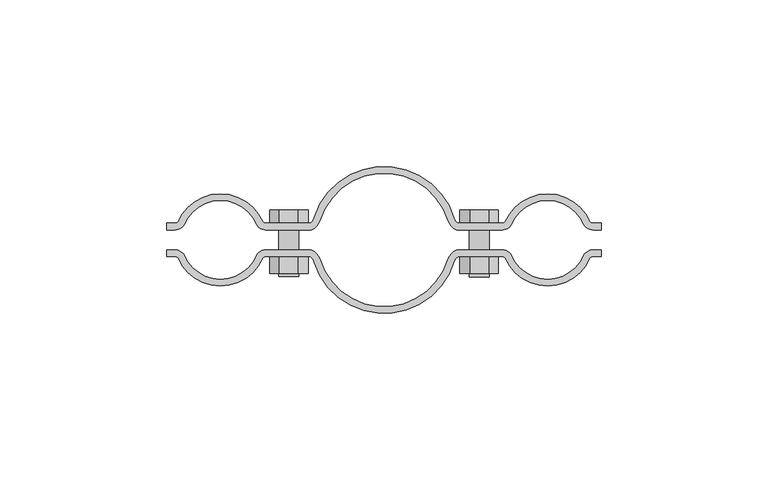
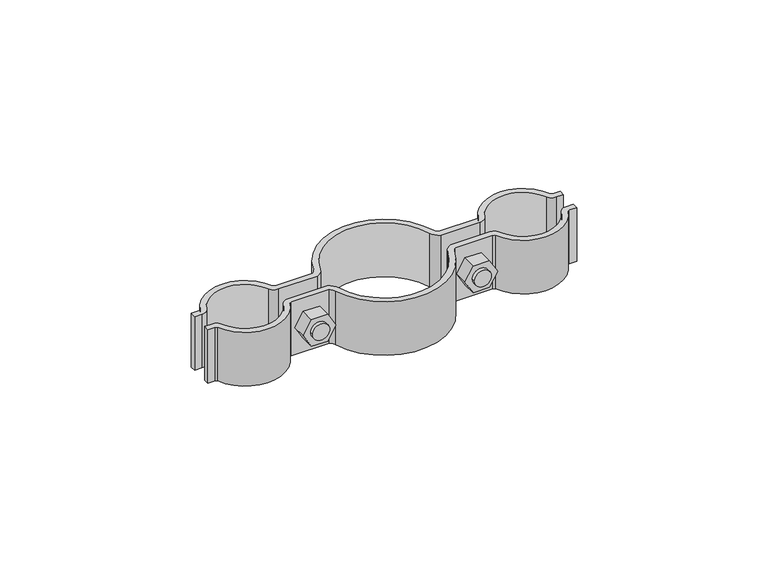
"""IFC4 building model written with IfcOpenShell, lengths in millimetres: proxy geometry, КНС_ДержательНаружногоИзолированногоТокоотводаДляИзолированнойМолниеприемнойМачты_DKC : NK3202_Нержавеющая сталь."""

from ifc_helpers import new_model, si_unit, point, frame, frame_2d, origin, origin_2d, place, context, project, spatial, polyline, circle_curve, trimmed, segment, composite_curve, outline, extrude, source, transform, mapped, element, save


def security_devices_559b2867(model_context):
    return source(origin(), model_context, "Body", "SweptSolid", [
        extrude(outline(composite_curve([segment(trimmed(circle_curve(frame_2d((0.0, 28.5)), 3.0), [point((0.0, 31.5))], [point((0.0, 25.5))], False, "CARTESIAN"), True, "CONTINUOUS"), segment(trimmed(circle_curve(frame_2d((0.0, 28.5)), 3.0), [point((0.0, 25.5))], [point((0.0, 31.5))], False, "CARTESIAN"), True, "CONTINUOUS")], self_intersect=False)), frame((0.0, -11.0407391, 0.0), z_axis=(0.0, 1.0, 0.0), x_axis=(0.0, 0.0, 1.0)), (0.0, 0.0, 1.0), 16.0407391),
        extrude(outline(composite_curve([segment(trimmed(circle_curve(frame_2d((0.0, -28.5)), 3.0), [point((0.0, -31.5))], [point((0.0, -25.5))], False, "CARTESIAN"), True, "CONTINUOUS"), segment(trimmed(circle_curve(frame_2d((0.0, -28.5)), 3.0), [point((0.0, -25.5))], [point((0.0, -31.5))], False, "CARTESIAN"), True, "CONTINUOUS")], self_intersect=False)), frame((0.0, -11.0, 0.0), z_axis=(0.0, 1.0, 0.0), x_axis=(0.0, 0.0, 1.0)), (0.0, 0.0, 1.0), 16.0),
        extrude(outline(polyline([(0.0, 34.2735027), (5.0, 31.3867513), (5.0, 25.6132487), (0.0, 22.7264973), (-5.0, 25.6132487), (-5.0, 31.3867513), (0.0, 34.2735027)])), frame((0.0, 5.0, 0.0), z_axis=(0.0, 1.0, 0.0), x_axis=(0.0, 0.0, 1.0)), (0.0, 0.0, 1.0), 4.0),
        extrude(outline(polyline([(0.0, -34.2735027), (-5.0, -31.3867513), (-5.0, -25.6132487), (0.0, -22.7264973), (5.0, -25.6132487), (5.0, -31.3867513), (0.0, -34.2735027)])), frame((0.0, 5.0, 0.0), z_axis=(0.0, 1.0, 0.0), x_axis=(0.0, 0.0, 1.0)), (0.0, 0.0, 1.0), 4.0),
        extrude(outline(polyline([(0.0, 34.2735027), (5.0, 31.3867513), (5.0, 25.6132487), (0.0, 22.7264973), (-5.0, 25.6132487), (-5.0, 31.3867513), (0.0, 34.2735027)])), frame((0.0, -10.0, 0.0), z_axis=(0.0, 1.0, 0.0), x_axis=(0.0, 0.0, 1.0)), (0.0, 0.0, 1.0), 5.0),
        extrude(outline(polyline([(0.0, -34.2735027), (-5.0, -31.3867513), (-5.0, -25.6132487), (0.0, -22.7264973), (5.0, -25.6132487), (5.0, -31.3867513), (0.0, -34.2735027)])), frame((0.0, -10.0, 0.0), z_axis=(0.0, 1.0, 0.0), x_axis=(0.0, 0.0, 1.0)), (0.0, 0.0, 1.0), 5.0),
        extrude(outline(composite_curve([segment(trimmed(circle_curve(origin_2d(), 20.0), [point((-19.2022645, -5.5922302))], [point((19.2022645, -5.5922302))], True, "CARTESIAN"), True, "CONTINUOUS"), segment(trimmed(circle_curve(frame_2d((23.4842275, -7.281963)), 4.6033036), [point((19.2022645, -5.5922302))], [point((21.7944947, -3.0))], False, "CARTESIAN"), True, "CONTINUOUS"), segment(polyline([(21.7944947, -3.0), (35.5300334, -3.0)]), True, "CONTINUOUS"), segment(trimmed(circle_curve(frame_2d((35.5300334, -5.9220218)), 2.9220218), [point((35.5300334, -3.0))], [point((38.1227213, -4.5743643))], False, "CARTESIAN"), True, "CONTINUOUS"), segment(trimmed(circle_curve(frame_2d((49.0, 0.0)), 11.8), [point((38.1227213, -4.5743643))], [point((59.8772787, -4.5743643))], True, "CARTESIAN"), True, "CONTINUOUS"), segment(trimmed(circle_curve(frame_2d((62.4699666, -5.9220218)), 2.9220218), [point((59.8772787, -4.5743643))], [point((62.4699666, -3.0))], False, "CARTESIAN"), True, "CONTINUOUS"), segment(polyline([(62.4699666, -3.0), (65.0, -3.0), (65.0, -5.0), (62.4699666, -5.0)]), True, "CONTINUOUS"), segment(trimmed(circle_curve(frame_2d((62.4699666, -5.9220218)), 0.9220218), [point((62.4699666, -5.0))], [point((61.6789928, -5.4482236))], True, "CARTESIAN"), True, "CONTINUOUS"), segment(trimmed(circle_curve(frame_2d((49.0, 0.0)), 13.8), [point((61.6789928, -5.4482236))], [point((36.3210072, -5.4482236))], False, "CARTESIAN"), True, "CONTINUOUS"), segment(trimmed(circle_curve(frame_2d((35.5300334, -5.9220218)), 0.9220218), [point((36.3210072, -5.4482236))], [point((35.5300334, -5.0))], True, "CARTESIAN"), True, "CONTINUOUS"), segment(polyline([(35.5300334, -5.0), (22.2312971, -5.0)]), True, "CONTINUOUS"), segment(trimmed(circle_curve(frame_2d((23.4842275, -7.281963)), 2.6033036), [point((22.2312971, -5.0))], [point((21.0920918, -6.2548913))], True, "CARTESIAN"), True, "CONTINUOUS"), segment(trimmed(circle_curve(origin_2d(), 22.0), [point((21.0920918, -6.2548913))], [point((-20.9306684, -6.7754792))], False, "CARTESIAN"), True, "CONTINUOUS"), segment(trimmed(circle_curve(frame_2d((-23.4842275, -7.281963)), 2.6033036), [point((-20.9306684, -6.7754792))], [point((-22.2312971, -5.0))], True, "CARTESIAN"), True, "CONTINUOUS"), segment(polyline([(-22.2312971, -5.0), (-35.5300334, -5.0)]), True, "CONTINUOUS"), segment(trimmed(circle_curve(frame_2d((-35.5300334, -5.9220218)), 0.9220218), [point((-35.5300334, -5.0))], [point((-36.3210072, -5.4482236))], True, "CARTESIAN"), True, "CONTINUOUS"), segment(trimmed(circle_curve(frame_2d((-49.0, 0.0)), 13.8), [point((-36.3210072, -5.4482236))], [point((-61.6789928, -5.4482236))], False, "CARTESIAN"), True, "CONTINUOUS"), segment(trimmed(circle_curve(frame_2d((-62.4699666, -5.9220218)), 0.9220218), [point((-61.6789928, -5.4482236))], [point((-62.4699666, -5.0))], True, "CARTESIAN"), True, "CONTINUOUS"), segment(polyline([(-62.4699666, -5.0), (-65.0, -5.0), (-65.0, -3.0), (-62.4699666, -3.0)]), True, "CONTINUOUS"), segment(trimmed(circle_curve(frame_2d((-62.4699666, -5.9220218)), 2.9220218), [point((-62.4699666, -3.0))], [point((-59.8772787, -4.5743643))], False, "CARTESIAN"), True, "CONTINUOUS"), segment(trimmed(circle_curve(frame_2d((-49.0, 0.0)), 11.8), [point((-59.8772787, -4.5743643))], [point((-38.1227213, -4.5743643))], True, "CARTESIAN"), True, "CONTINUOUS"), segment(trimmed(circle_curve(frame_2d((-35.5300334, -5.9220218)), 2.9220218), [point((-38.1227213, -4.5743643))], [point((-35.5300334, -3.0))], False, "CARTESIAN"), True, "CONTINUOUS"), segment(polyline([(-35.5300334, -3.0), (-21.7944947, -3.0)]), True, "CONTINUOUS"), segment(trimmed(circle_curve(frame_2d((-23.4842275, -7.281963)), 4.6033036), [point((-21.7944947, -3.0))], [point((-19.2022645, -5.5922302))], False, "CARTESIAN"), True, "CONTINUOUS")], self_intersect=False)), frame((0.0, 0.0, -10.0), z_axis=(0.0, 0.0, 1.0), x_axis=(1.0, 0.0, 0.0)), (0.0, 0.0, 1.0), 20.0),
        extrude(outline(composite_curve([segment(trimmed(circle_curve(frame_2d((-23.4842275, 7.281963)), 4.6033036), [point((-19.2022645, 5.5922302))], [point((-21.7944947, 3.0))], False, "CARTESIAN"), True, "CONTINUOUS"), segment(polyline([(-21.7944947, 3.0), (-35.5300334, 3.0)]), True, "CONTINUOUS"), segment(trimmed(circle_curve(frame_2d((-35.5300334, 5.9220218)), 2.9220218), [point((-35.5300334, 3.0))], [point((-38.1227213, 4.5743643))], False, "CARTESIAN"), True, "CONTINUOUS"), segment(trimmed(circle_curve(frame_2d((-49.0, 0.0)), 11.8), [point((-38.1227213, 4.5743643))], [point((-59.8772787, 4.5743643))], True, "CARTESIAN"), True, "CONTINUOUS"), segment(trimmed(circle_curve(frame_2d((-62.4699666, 5.9220218)), 2.9220218), [point((-59.8772787, 4.5743643))], [point((-62.4699666, 3.0))], False, "CARTESIAN"), True, "CONTINUOUS"), segment(polyline([(-62.4699666, 3.0), (-65.0, 3.0), (-65.0, 5.0), (-62.4699666, 5.0)]), True, "CONTINUOUS"), segment(trimmed(circle_curve(frame_2d((-62.4699666, 5.9220218)), 0.9220218), [point((-62.4699666, 5.0))], [point((-61.6789928, 5.4482236))], True, "CARTESIAN"), True, "CONTINUOUS"), segment(trimmed(circle_curve(frame_2d((-49.0, 0.0)), 13.8), [point((-61.6789928, 5.4482236))], [point((-36.3210072, 5.4482236))], False, "CARTESIAN"), True, "CONTINUOUS"), segment(trimmed(circle_curve(frame_2d((-35.5300334, 5.9220218)), 0.9220218), [point((-36.3210072, 5.4482236))], [point((-35.5300334, 5.0))], True, "CARTESIAN"), True, "CONTINUOUS"), segment(polyline([(-35.5300334, 5.0), (-22.2312971, 5.0)]), True, "CONTINUOUS"), segment(trimmed(circle_curve(frame_2d((-23.4842275, 7.281963)), 2.6033036), [point((-22.2312971, 5.0))], [point((-20.9306684, 6.7754792))], True, "CARTESIAN"), True, "CONTINUOUS"), segment(trimmed(circle_curve(origin_2d(), 22.0), [point((-20.9306684, 6.7754792))], [point((21.0920918, 6.2548913))], False, "CARTESIAN"), True, "CONTINUOUS"), segment(trimmed(circle_curve(frame_2d((23.4842275, 7.281963)), 2.6033036), [point((21.0920918, 6.2548913))], [point((22.2312971, 5.0))], True, "CARTESIAN"), True, "CONTINUOUS"), segment(polyline([(22.2312971, 5.0), (35.5300334, 5.0)]), True, "CONTINUOUS"), segment(trimmed(circle_curve(frame_2d((35.5300334, 5.9220218)), 0.9220218), [point((35.5300334, 5.0))], [point((36.3210072, 5.4482236))], True, "CARTESIAN"), True, "CONTINUOUS"), segment(trimmed(circle_curve(frame_2d((49.0, 0.0)), 13.8), [point((36.3210072, 5.4482236))], [point((61.6789928, 5.4482236))], False, "CARTESIAN"), True, "CONTINUOUS"), segment(trimmed(circle_curve(frame_2d((62.4699666, 5.9220218)), 0.9220218), [point((61.6789928, 5.4482236))], [point((62.4699666, 5.0))], True, "CARTESIAN"), True, "CONTINUOUS"), segment(polyline([(62.4699666, 5.0), (65.0, 5.0), (65.0, 3.0), (62.4699666, 3.0)]), True, "CONTINUOUS"), segment(trimmed(circle_curve(frame_2d((62.4699666, 5.9220218)), 2.9220218), [point((62.4699666, 3.0))], [point((59.8772787, 4.5743643))], False, "CARTESIAN"), True, "CONTINUOUS"), segment(trimmed(circle_curve(frame_2d((49.0, 0.0)), 11.8), [point((59.8772787, 4.5743643))], [point((38.1227213, 4.5743643))], True, "CARTESIAN"), True, "CONTINUOUS"), segment(trimmed(circle_curve(frame_2d((35.5300334, 5.9220218)), 2.9220218), [point((38.1227213, 4.5743643))], [point((35.5300334, 3.0))], False, "CARTESIAN"), True, "CONTINUOUS"), segment(polyline([(35.5300334, 3.0), (21.7944947, 3.0)]), True, "CONTINUOUS"), segment(trimmed(circle_curve(frame_2d((23.4842275, 7.281963)), 4.6033036), [point((21.7944947, 3.0))], [point((19.2022645, 5.5922302))], False, "CARTESIAN"), True, "CONTINUOUS"), segment(trimmed(circle_curve(origin_2d(), 20.0), [point((19.2022645, 5.5922302))], [point((-19.2022645, 5.5922302))], True, "CARTESIAN"), True, "CONTINUOUS")], self_intersect=False)), frame((0.0, 0.0, -10.0), z_axis=(0.0, 0.0, 1.0), x_axis=(1.0, 0.0, 0.0)), (0.0, 0.0, 1.0), 20.0),
    ])


if __name__ == "__main__":
    model = new_model("IFC4")
    model_context = context("Model", 3, world=origin())
    ifc_project = project(units=[si_unit("LENGTHUNIT", "METRE", prefix="MILLI")], contexts=[model_context])
    site = spatial("IfcSite", under=ifc_project)
    building = spatial("IfcBuilding", under=site)
    placement = place(None, origin())
    security_devices_shape = security_devices_559b2867(model_context)
    element("IfcBuildingElementProxy", 1, Name="КНС_ДержательНаружногоИзолированногоТокоотводаДляИзолированнойМолниеприемнойМачты_DKC : NK3202_Нержавеющая сталь", ObjectType="КНС_ДержательНаружногоИзолированногоТокоотводаДляИзолированнойМолниеприемнойМачты_DKC : NK3202_Нержавеющая сталь", at=placement, inside=building, context=model_context, shape_type="MappedRepresentation", body=[
        mapped(security_devices_shape, transform((0.0, 0.0, 0.0), x_axis=(1.0, 0.0, 0.0), y_axis=(0.0, 1.0, 0.0), z_axis=(0.0, 0.0, 1.0))),
    ])
    save(model, "model.ifc")
